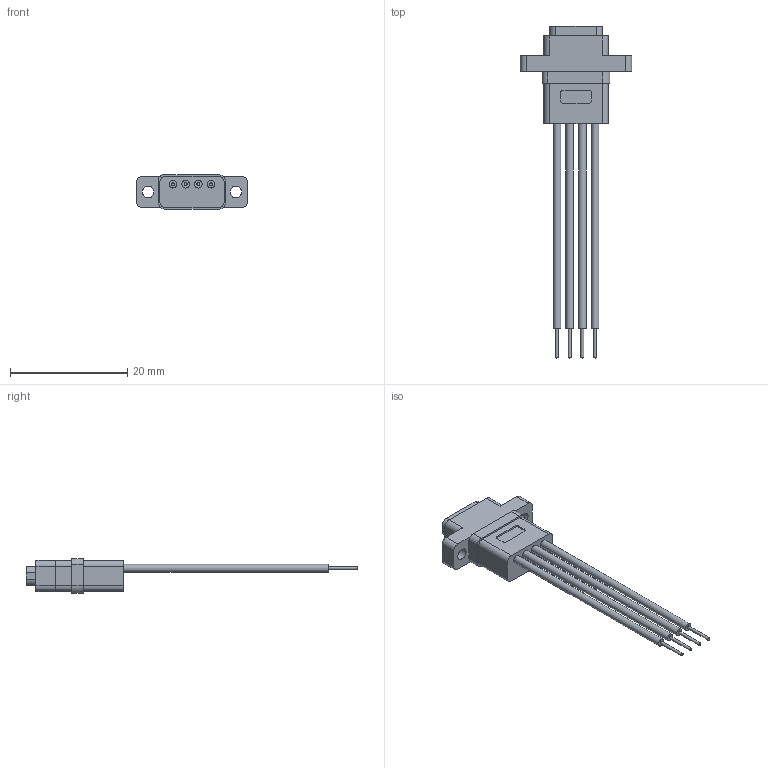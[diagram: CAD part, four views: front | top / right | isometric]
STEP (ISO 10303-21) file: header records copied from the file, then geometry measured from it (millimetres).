
FILE_DESCRIPTION(/* description */ (''),/* implementation_level */ '2;1');
FILE_NAME(/* name */ 'USB Connector v2.step',/* time_stamp */ '2023-03-12T13:53:44+01:00',/* author */ (''),/* organization */ (''),/* preprocessor_version */ 'ST-DEVELOPER v19.2',/* originating_system */ 'Autodesk Translation Framework v11.17.0.187',/* authorisation */ '');
FILE_SCHEMA (('AUTOMOTIVE_DESIGN { 1 0 10303 214 3 1 1 }'));
Length unit declared in the file: millimetre
Products named in the file (1): USB Connector
Bounding box: 19 x 56.7 x 5.9 mm (x, y, z)
Volume: 1146.6 mm3; surface area: 1566.4 mm2
Topology: 1 solids, 1 shells, 89 faces, 218 edges, 144 vertices
Faces by surface type: plane 51, cylinder 38
Full cylindrical faces by diameter (mm): 0.5 x4, 1.3 x4, 2 x2
Entity records: 2802 total; most frequent: DIRECTION 478, CARTESIAN_POINT 452, ORIENTED_EDGE 436, EDGE_CURVE 218, AXIS2_PLACEMENT_3D 170, VERTEX_POINT 144, LINE 138, VECTOR 138
